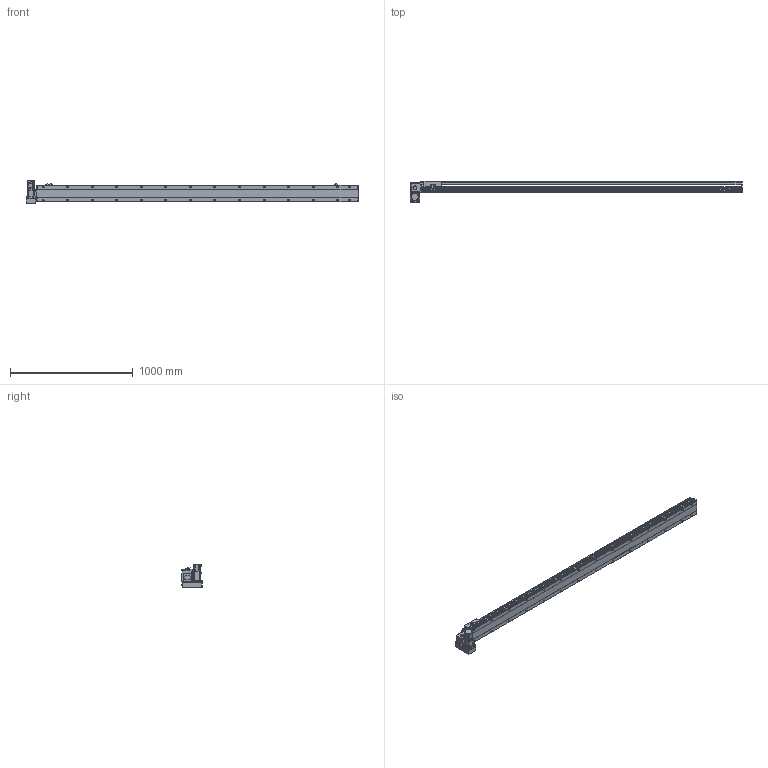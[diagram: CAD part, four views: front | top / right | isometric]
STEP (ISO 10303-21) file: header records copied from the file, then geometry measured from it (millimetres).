
FILE_DESCRIPTION(/* description */ ('STEP AP214'),/* implementation_level */ '2;1');
FILE_NAME(/* name */ 'PBS140S-P40-S2350-LD-T40-C1-N(0)',/* time_stamp */ '2022-06-09T02:28:53+02:00',/* author */ ('License CC BY-ND 4.0'),/* organization */ ('CADENAS'),/* preprocessor_version */ 'ST-DEVELOPER v18.102',/* originating_system */ 'PARTsolutions',/* authorisation */ ' ');
FILE_SCHEMA (('AUTOMOTIVE_DESIGN {1 0 10303 214 3 1 1}'));
Length unit declared in the file: millimetre
Products named in the file (7): PBS140S-P40-S2350-LD-T40-C1-N(0); PBS140S_sensor; PBS140S_plant; PBS140S_sliser; T40-p1; PBS140ST-LD_motors; PBS140S-S2350()_body
Assembly tree (8 placements, depth 2):
  PBS140S-P40-S2350-LD-T40-C1-N(0)
    PBS140S_sensor  x3
    PBS140S_plant
    PBS140S_sliser
    T40-p1
    PBS140ST-LD_motors
    PBS140S-S2350()_body
Bounding box: 2704 x 172.5 x 189.7 mm (x, y, z)
Volume: 13186336.7 mm3; surface area: 2225330.1 mm2
Topology: 8 solids, 8 shells, 1195 faces, 3151 edges, 2061 vertices
Faces by surface type: plane 738, cylinder 393, cone 54, sphere 8, torus 2
Full cylindrical faces by diameter (mm): 3.242 x4, 4 x2, 4.134 x4, 4.4 x8, 4.5 x2, 4.8 x4, 4.917 x36, 5.5 x7, 6 x2, 7 x30, 7.5 x8, 8 x12, 8.5 x4, 10.5 x28, 14 x1, 30 x2, 50 x2
Entity records: 34244 total; most frequent: CARTESIAN_POINT 6488, DIRECTION 5768, ORIENTED_EDGE 5422, EDGE_CURVE 2711, AXIS2_PLACEMENT_3D 2039, VERTEX_POINT 1897, LINE 1690, VECTOR 1690
